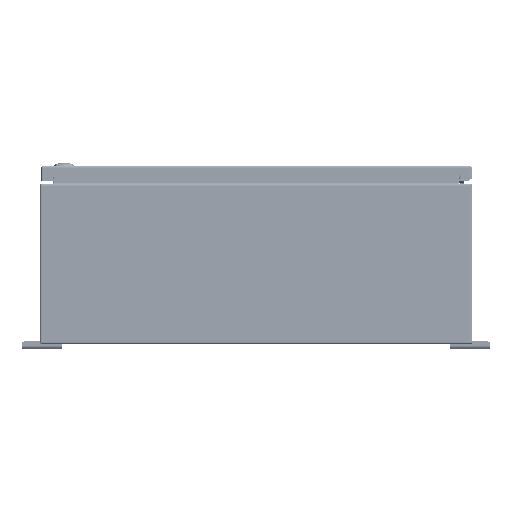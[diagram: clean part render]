
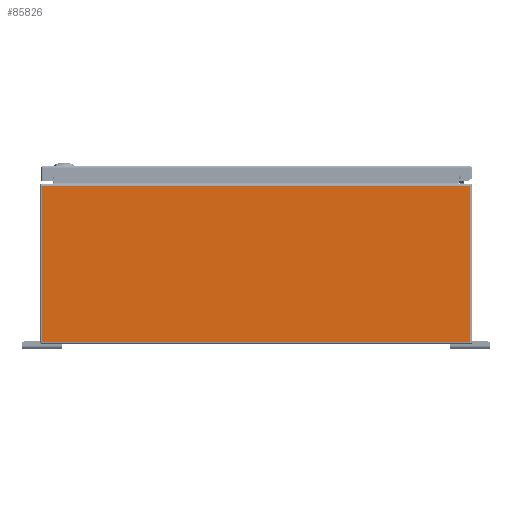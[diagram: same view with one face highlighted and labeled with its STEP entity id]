
A CAD part, left-side view. The second image highlights one B-rep face of the part: STEP entity #85826.
In plain terms, the highlighted planar face has unit normal (-1, 0, 0).
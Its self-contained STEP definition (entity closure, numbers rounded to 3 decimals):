
#5358=PLANE('',#91985);
#7456=LINE('',#120142,#13963);
#7457=LINE('',#120146,#13964);
#7458=LINE('',#120148,#13965);
#7459=LINE('',#120150,#13966);
#7460=LINE('',#120152,#13967);
#7461=LINE('',#120153,#13968);
#13963=VECTOR('',#99284,0.394);
#13964=VECTOR('',#99289,0.394);
#13965=VECTOR('',#99290,0.394);
#13966=VECTOR('',#99291,0.394);
#13967=VECTOR('',#99292,0.394);
#13968=VECTOR('',#99293,0.394);
#21788=FACE_OUTER_BOUND('',#26932,.T.);
#26932=EDGE_LOOP('',(#57757,#57758,#57759,#57760,#57761,#57762));
#35525=VERTEX_POINT('',#120124);
#35532=VERTEX_POINT('',#120141);
#35533=VERTEX_POINT('',#120145);
#35534=VERTEX_POINT('',#120147);
#35535=VERTEX_POINT('',#120149);
#35536=VERTEX_POINT('',#120151);
#44199=EDGE_CURVE('',#35525,#35532,#7456,.T.);
#44201=EDGE_CURVE('',#35533,#35525,#7457,.T.);
#44202=EDGE_CURVE('',#35533,#35534,#7458,.T.);
#44203=EDGE_CURVE('',#35535,#35534,#7459,.T.);
#44204=EDGE_CURVE('',#35536,#35535,#7460,.T.);
#44205=EDGE_CURVE('',#35536,#35532,#7461,.T.);
#57757=ORIENTED_EDGE('',*,*,#44201,.F.);
#57758=ORIENTED_EDGE('',*,*,#44202,.T.);
#57759=ORIENTED_EDGE('',*,*,#44203,.F.);
#57760=ORIENTED_EDGE('',*,*,#44204,.F.);
#57761=ORIENTED_EDGE('',*,*,#44205,.T.);
#57762=ORIENTED_EDGE('',*,*,#44199,.F.);
#85826=ADVANCED_FACE('',(#21788),#5358,.F.);
#91985=AXIS2_PLACEMENT_3D('',#120144,#99287,#99288);
#99284=DIRECTION('',(0.,0.,-1.));
#99287=DIRECTION('center_axis',(1.,0.,0.));
#99288=DIRECTION('ref_axis',(0.,0.,-1.));
#99289=DIRECTION('',(0.,-1.,0.));
#99290=DIRECTION('',(0.,1.,0.));
#99291=DIRECTION('',(0.,-1.,0.));
#99292=DIRECTION('',(0.,0.,1.));
#99293=DIRECTION('',(0.,-1.,0.));
#120124=CARTESIAN_POINT('',(-36.,-13.401,9.901));
#120141=CARTESIAN_POINT('',(-36.,-13.401,0.099));
#120142=CARTESIAN_POINT('',(-36.,-13.401,5.));
#120144=CARTESIAN_POINT('Origin',(-36.,0.,5.));
#120145=CARTESIAN_POINT('',(-36.,-12.626,9.901));
#120146=CARTESIAN_POINT('',(-36.,-6.725,9.901));
#120147=CARTESIAN_POINT('',(-36.,12.626,9.901));
#120148=CARTESIAN_POINT('',(-36.,6.705,9.901));
#120149=CARTESIAN_POINT('',(-36.,13.401,9.901));
#120150=CARTESIAN_POINT('',(-36.,-6.725,9.901));
#120151=CARTESIAN_POINT('',(-36.,13.401,0.099));
#120152=CARTESIAN_POINT('',(-36.,13.401,5.));
#120153=CARTESIAN_POINT('',(-36.,6.75,0.099));
